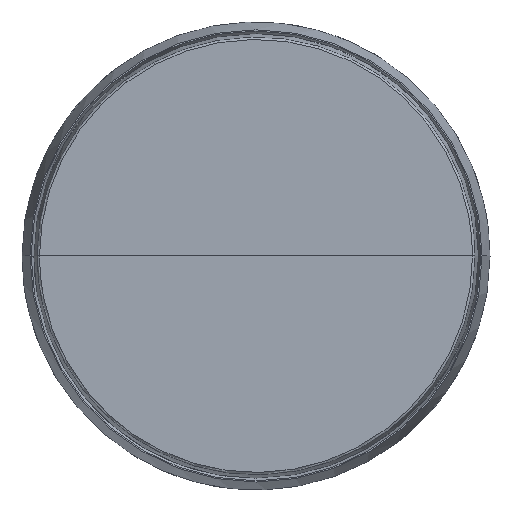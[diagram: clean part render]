
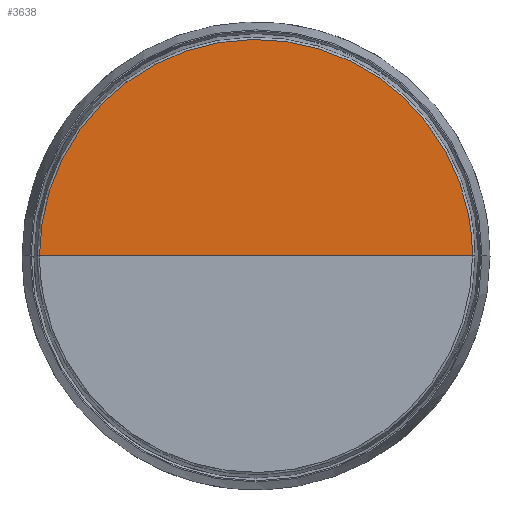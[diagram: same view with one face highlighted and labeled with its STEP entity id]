
A CAD part, top view. The second image highlights one B-rep face of the part: STEP entity #3638.
In plain terms, the highlighted planar face has unit normal (0, 0, 1).
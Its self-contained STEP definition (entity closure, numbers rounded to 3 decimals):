
#148=B_SPLINE_CURVE_WITH_KNOTS('',3,(#11194,#11195,#11196,#11197,#11198,
#11199,#11200,#11201,#11202,#11203,#11204,#11205,#11206,#11207,#11208,#11209,
#11210,#11211),.UNSPECIFIED.,.F.,.F.,(4,1,1,1,1,1,1,1,1,1,1,1,1,1,1,4),
(0.,0.067,0.133,0.2,0.267,0.333,
0.4,0.467,0.533,0.6,0.667,0.733,
0.8,0.867,0.933,1.),.UNSPECIFIED.);
#291=PLANE('',#4118);
#525=FACE_OUTER_BOUND('',#812,.T.);
#812=EDGE_LOOP('',(#3273,#3274));
#1012=LINE('',#11174,#1209);
#1209=VECTOR('',#5256,304.8);
#1762=VERTEX_POINT('',#11172);
#1763=VERTEX_POINT('',#11173);
#2265=EDGE_CURVE('',#1762,#1763,#1012,.T.);
#2267=EDGE_CURVE('',#1762,#1763,#148,.T.);
#3273=ORIENTED_EDGE('',*,*,#2265,.T.);
#3274=ORIENTED_EDGE('',*,*,#2267,.F.);
#3638=ADVANCED_FACE('',(#525),#291,.T.);
#4118=AXIS2_PLACEMENT_3D('',#11193,#5257,#5258);
#5256=DIRECTION('',(1.,0.,0.));
#5257=DIRECTION('center_axis',(0.,0.,1.));
#5258=DIRECTION('ref_axis',(1.,0.,0.));
#11172=CARTESIAN_POINT('',(-277.582,0.,65.));
#11173=CARTESIAN_POINT('',(277.582,0.,65.));
#11174=CARTESIAN_POINT('',(-277.582,0.,65.));
#11193=CARTESIAN_POINT('Origin',(0.,0.,65.));
#11194=CARTESIAN_POINT('Ctrl Pts',(-277.582,0.,
65.));
#11195=CARTESIAN_POINT('Ctrl Pts',(-277.613,19.385,65.));
#11196=CARTESIAN_POINT('Ctrl Pts',(-273.494,58.133,65.));
#11197=CARTESIAN_POINT('Ctrl Pts',(-255.448,113.732,65.));
#11198=CARTESIAN_POINT('Ctrl Pts',(-226.215,164.355,65.));
#11199=CARTESIAN_POINT('Ctrl Pts',(-187.102,207.797,65.));
#11200=CARTESIAN_POINT('Ctrl Pts',(-139.809,242.157,65.));
#11201=CARTESIAN_POINT('Ctrl Pts',(-86.407,265.933,65.));
#11202=CARTESIAN_POINT('Ctrl Pts',(-29.228,278.087,65.));
#11203=CARTESIAN_POINT('Ctrl Pts',(29.228,278.087,65.));
#11204=CARTESIAN_POINT('Ctrl Pts',(86.407,265.933,65.));
#11205=CARTESIAN_POINT('Ctrl Pts',(139.809,242.157,65.));
#11206=CARTESIAN_POINT('Ctrl Pts',(187.102,207.797,65.));
#11207=CARTESIAN_POINT('Ctrl Pts',(226.215,164.355,65.));
#11208=CARTESIAN_POINT('Ctrl Pts',(255.448,113.732,65.));
#11209=CARTESIAN_POINT('Ctrl Pts',(273.494,58.133,65.));
#11210=CARTESIAN_POINT('Ctrl Pts',(277.613,19.385,65.));
#11211=CARTESIAN_POINT('Ctrl Pts',(277.582,0.,
65.));
